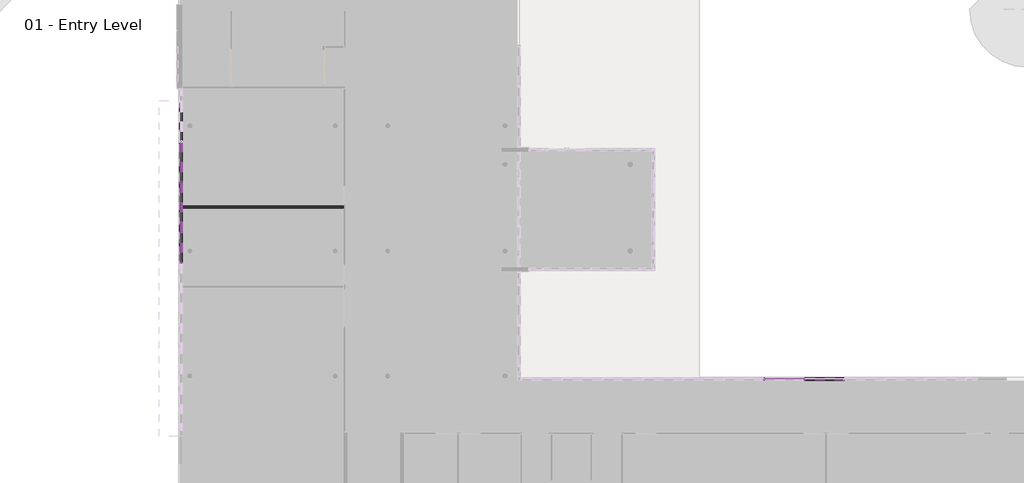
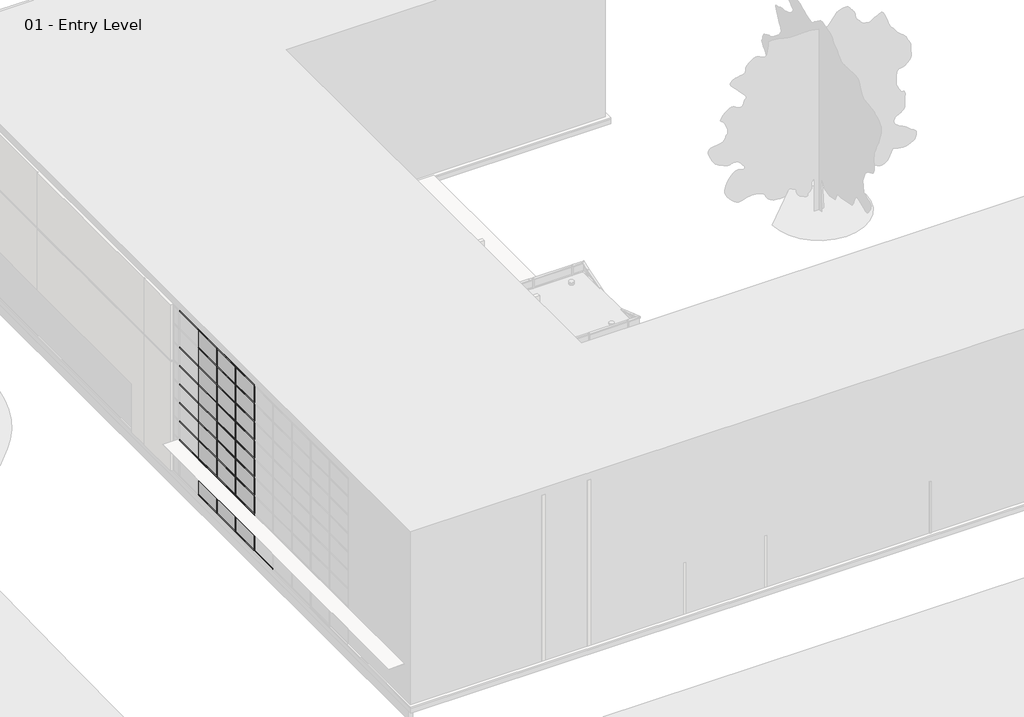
# One storey, part 11 of 35: 94 members, 36 plates, 1 wall.
"""IFC4 building model written with IfcOpenShell, lengths in millimetres."""

from ifc_helpers import new_model, si_unit, origin, origin_with_axes, place, context, project, spatial, polyline, outline, extrude, transform, mapped, element, save
from components import member_2b49869a, member_391b434c, member_9e90ae50, system_panel_glazed_1b9d6098, system_panel_glazed_70da479d, system_panel_solid_b376696c, system_panel_solid_77e8b053

model = new_model("IFC4")

# Units and contexts
model_context = context("Model", 3, world=origin())
ifc_project = project(units=[si_unit("LENGTHUNIT", "METRE", prefix="MILLI")], contexts=[model_context])

# Site, building, storey
site = spatial("IfcSite", under=ifc_project)
building = spatial("IfcBuilding", under=site)
storey = spatial("IfcBuildingStorey", under=building, Name="01 - Entry Level", Elevation=0.0)

# Members
placement = place(None, origin())
member_shape = member_2b49869a(model_context)
element("IfcMember", 1, ObjectType="Rectangular Mullion : 2.5\" x 5\" rectangular", at=placement, inside=storey, context=model_context, shape_type="MappedRepresentation", body=[
    mapped(member_shape, transform((178.7207476, 20920.0, 9753.6), x_axis=(0.0, -1.0, 0.0), y_axis=(-1.0, 0.0, 0.0), z_axis=(0.0, 0.0, -1.0))),
])
element("IfcMember", 2, ObjectType="Rectangular Mullion : 2.5\" x 5\" rectangular", at=placement, inside=storey, context=model_context, shape_type="MappedRepresentation", body=[
    mapped(member_shape, transform((178.7207476, 18888.0, 9753.6), x_axis=(0.0, -1.0, 0.0), y_axis=(-1.0, 0.0, 0.0), z_axis=(0.0, 0.0, -1.0))),
])
element("IfcMember", 3, ObjectType="Rectangular Mullion : 2.5\" x 5\" rectangular", at=placement, inside=storey, context=model_context, shape_type="MappedRepresentation", body=[
    mapped(member_shape, transform((178.7207476, 16856.0, 9753.6), x_axis=(0.0, -1.0, 0.0), y_axis=(-1.0, 0.0, 0.0), z_axis=(0.0, 0.0, -1.0))),
])
element("IfcMember", 4, ObjectType="Rectangular Mullion : 2.5\" x 5\" rectangular", at=placement, inside=storey, context=model_context, shape_type="MappedRepresentation", body=[
    mapped(member_shape, transform((31560.4207476, 11001.3, 9753.6), x_axis=(-1.0, 0.0, 0.0), y_axis=(0.0, 1.0, 0.0), z_axis=(0.0, 0.0, -1.0))),
])
element("IfcMember", 5, ObjectType="Rectangular Mullion : 2.5\" x 5\" rectangular", at=placement, inside=storey, context=model_context, shape_type="MappedRepresentation", body=[
    mapped(member_shape, transform((29528.4207476, 11001.3, 9753.6), x_axis=(-1.0, 0.0, 0.0), y_axis=(0.0, 1.0, 0.0), z_axis=(0.0, 0.0, -1.0))),
])
member_2_shape = member_391b434c(model_context)
element("IfcMember", 6, ObjectType="Rectangular Mullion : 2.5\" x 5\" rectangular", at=placement, inside=storey, context=model_context, shape_type="MappedRepresentation", body=[
    mapped(member_2_shape, transform((178.7207476, 22983.75, 10972.8), x_axis=(0.0, 0.0, 1.0), y_axis=(-1.0, 0.0, 0.0), z_axis=(0.0, -1.0, 0.0))),
])
element("IfcMember", 7, ObjectType="Rectangular Mullion : 2.5\" x 5\" rectangular", at=placement, inside=storey, context=model_context, shape_type="MappedRepresentation", body=[
    mapped(member_2_shape, transform((178.7207476, 20951.75, 10972.8), x_axis=(0.0, 0.0, 1.0), y_axis=(-1.0, 0.0, 0.0), z_axis=(0.0, -1.0, 0.0))),
])
element("IfcMember", 8, ObjectType="Rectangular Mullion : 2.5\" x 5\" rectangular", at=placement, inside=storey, context=model_context, shape_type="MappedRepresentation", body=[
    mapped(member_2_shape, transform((178.7207476, 18919.75, 10972.8), x_axis=(0.0, 0.0, 1.0), y_axis=(-1.0, 0.0, 0.0), z_axis=(0.0, -1.0, 0.0))),
])
element("IfcMember", 9, ObjectType="Rectangular Mullion : 2.5\" x 5\" rectangular", at=placement, inside=storey, context=model_context, shape_type="MappedRepresentation", body=[
    mapped(member_2_shape, transform((178.7207476, 16887.75, 10972.8), x_axis=(0.0, 0.0, 1.0), y_axis=(-1.0, 0.0, 0.0), z_axis=(0.0, -1.0, 0.0))),
])
element("IfcMember", 10, ObjectType="Rectangular Mullion : 2.5\" x 5\" rectangular", at=placement, inside=storey, context=model_context, shape_type="MappedRepresentation", body=[
    mapped(member_2_shape, transform((31592.1707476, 11001.3, 10972.8), x_axis=(0.0, 0.0, 1.0), y_axis=(0.0, 1.0, 0.0), z_axis=(-1.0, 0.0, 0.0))),
])
element("IfcMember", 11, ObjectType="Rectangular Mullion : 2.5\" x 5\" rectangular", at=placement, inside=storey, context=model_context, shape_type="MappedRepresentation", body=[
    mapped(member_2_shape, transform((178.7207476, 22920.25, 0.0), x_axis=(0.0, 0.0, -1.0), y_axis=(-1.0, 0.0, 0.0), z_axis=(0.0, 1.0, 0.0))),
])
element("IfcMember", 12, ObjectType="Rectangular Mullion : 2.5\" x 5\" rectangular", at=placement, inside=storey, context=model_context, shape_type="MappedRepresentation", body=[
    mapped(member_2_shape, transform((178.7207476, 20888.25, 0.0), x_axis=(0.0, 0.0, -1.0), y_axis=(-1.0, 0.0, 0.0), z_axis=(0.0, 1.0, 0.0))),
])
element("IfcMember", 13, ObjectType="Rectangular Mullion : 2.5\" x 5\" rectangular", at=placement, inside=storey, context=model_context, shape_type="MappedRepresentation", body=[
    mapped(member_2_shape, transform((178.7207476, 18856.25, 0.0), x_axis=(0.0, 0.0, -1.0), y_axis=(-1.0, 0.0, 0.0), z_axis=(0.0, 1.0, 0.0))),
])
element("IfcMember", 14, ObjectType="Rectangular Mullion : 2.5\" x 5\" rectangular", at=placement, inside=storey, context=model_context, shape_type="MappedRepresentation", body=[
    mapped(member_2_shape, transform((178.7207476, 16824.25, 0.0), x_axis=(0.0, 0.0, -1.0), y_axis=(-1.0, 0.0, 0.0), z_axis=(0.0, 1.0, 0.0))),
])
element("IfcMember", 15, ObjectType="Rectangular Mullion : 2.5\" x 5\" rectangular", at=placement, inside=storey, context=model_context, shape_type="MappedRepresentation", body=[
    mapped(member_2_shape, transform((31528.6707476, 11001.3, 0.0), x_axis=(0.0, 0.0, -1.0), y_axis=(0.0, 1.0, 0.0), z_axis=(1.0, 0.0, 0.0))),
])
member_3_shape = member_9e90ae50(model_context)
element("IfcMember", 16, ObjectType="Rectangular Mullion : 2.5\" x 5\" rectangular", at=placement, inside=storey, context=model_context, shape_type="MappedRepresentation", body=[
    mapped(member_3_shape, transform((178.7207476, 22983.75, 1219.2), x_axis=(0.0, 0.0, 1.0), y_axis=(-1.0, 0.0, 0.0), z_axis=(0.0, -1.0, 0.0))),
])
element("IfcMember", 17, ObjectType="Rectangular Mullion : 2.5\" x 5\" rectangular", at=placement, inside=storey, context=model_context, shape_type="MappedRepresentation", body=[
    mapped(member_3_shape, transform((178.7207476, 20951.75, 1219.2), x_axis=(0.0, 0.0, 1.0), y_axis=(-1.0, 0.0, 0.0), z_axis=(0.0, -1.0, 0.0))),
])
element("IfcMember", 18, ObjectType="Rectangular Mullion : 2.5\" x 5\" rectangular", at=placement, inside=storey, context=model_context, shape_type="MappedRepresentation", body=[
    mapped(member_3_shape, transform((178.7207476, 18919.75, 1219.2), x_axis=(0.0, 0.0, 1.0), y_axis=(-1.0, 0.0, 0.0), z_axis=(0.0, -1.0, 0.0))),
])
element("IfcMember", 19, ObjectType="Rectangular Mullion : 2.5\" x 5\" rectangular", at=placement, inside=storey, context=model_context, shape_type="MappedRepresentation", body=[
    mapped(member_3_shape, transform((178.7207476, 16887.75, 1219.2), x_axis=(0.0, 0.0, 1.0), y_axis=(-1.0, 0.0, 0.0), z_axis=(0.0, -1.0, 0.0))),
])
element("IfcMember", 20, ObjectType="Rectangular Mullion : 2.5\" x 5\" rectangular", at=placement, inside=storey, context=model_context, shape_type="MappedRepresentation", body=[
    mapped(member_3_shape, transform((178.7207476, 22983.75, 2438.4), x_axis=(0.0, 0.0, 1.0), y_axis=(-1.0, 0.0, 0.0), z_axis=(0.0, -1.0, 0.0))),
])
element("IfcMember", 21, ObjectType="Rectangular Mullion : 2.5\" x 5\" rectangular", at=placement, inside=storey, context=model_context, shape_type="MappedRepresentation", body=[
    mapped(member_3_shape, transform((178.7207476, 20951.75, 2438.4), x_axis=(0.0, 0.0, 1.0), y_axis=(-1.0, 0.0, 0.0), z_axis=(0.0, -1.0, 0.0))),
])
element("IfcMember", 22, ObjectType="Rectangular Mullion : 2.5\" x 5\" rectangular", at=placement, inside=storey, context=model_context, shape_type="MappedRepresentation", body=[
    mapped(member_3_shape, transform((178.7207476, 18919.75, 2438.4), x_axis=(0.0, 0.0, 1.0), y_axis=(-1.0, 0.0, 0.0), z_axis=(0.0, -1.0, 0.0))),
])
element("IfcMember", 23, ObjectType="Rectangular Mullion : 2.5\" x 5\" rectangular", at=placement, inside=storey, context=model_context, shape_type="MappedRepresentation", body=[
    mapped(member_3_shape, transform((178.7207476, 16887.75, 2438.4), x_axis=(0.0, 0.0, 1.0), y_axis=(-1.0, 0.0, 0.0), z_axis=(0.0, -1.0, 0.0))),
])
element("IfcMember", 24, ObjectType="Rectangular Mullion : 2.5\" x 5\" rectangular", at=placement, inside=storey, context=model_context, shape_type="MappedRepresentation", body=[
    mapped(member_3_shape, transform((178.7207476, 22983.75, 3657.6), x_axis=(0.0, 0.0, 1.0), y_axis=(-1.0, 0.0, 0.0), z_axis=(0.0, -1.0, 0.0))),
])
element("IfcMember", 25, ObjectType="Rectangular Mullion : 2.5\" x 5\" rectangular", at=placement, inside=storey, context=model_context, shape_type="MappedRepresentation", body=[
    mapped(member_3_shape, transform((178.7207476, 20951.75, 3657.6), x_axis=(0.0, 0.0, 1.0), y_axis=(-1.0, 0.0, 0.0), z_axis=(0.0, -1.0, 0.0))),
])
element("IfcMember", 26, ObjectType="Rectangular Mullion : 2.5\" x 5\" rectangular", at=placement, inside=storey, context=model_context, shape_type="MappedRepresentation", body=[
    mapped(member_3_shape, transform((178.7207476, 18919.75, 3657.6), x_axis=(0.0, 0.0, 1.0), y_axis=(-1.0, 0.0, 0.0), z_axis=(0.0, -1.0, 0.0))),
])
element("IfcMember", 27, ObjectType="Rectangular Mullion : 2.5\" x 5\" rectangular", at=placement, inside=storey, context=model_context, shape_type="MappedRepresentation", body=[
    mapped(member_3_shape, transform((178.7207476, 16887.75, 3657.6), x_axis=(0.0, 0.0, 1.0), y_axis=(-1.0, 0.0, 0.0), z_axis=(0.0, -1.0, 0.0))),
])
element("IfcMember", 28, ObjectType="Rectangular Mullion : 2.5\" x 5\" rectangular", at=placement, inside=storey, context=model_context, shape_type="MappedRepresentation", body=[
    mapped(member_3_shape, transform((178.7207476, 22983.75, 4876.8), x_axis=(0.0, 0.0, 1.0), y_axis=(-1.0, 0.0, 0.0), z_axis=(0.0, -1.0, 0.0))),
])
element("IfcMember", 29, ObjectType="Rectangular Mullion : 2.5\" x 5\" rectangular", at=placement, inside=storey, context=model_context, shape_type="MappedRepresentation", body=[
    mapped(member_3_shape, transform((178.7207476, 20951.75, 4876.8), x_axis=(0.0, 0.0, 1.0), y_axis=(-1.0, 0.0, 0.0), z_axis=(0.0, -1.0, 0.0))),
])
element("IfcMember", 30, ObjectType="Rectangular Mullion : 2.5\" x 5\" rectangular", at=placement, inside=storey, context=model_context, shape_type="MappedRepresentation", body=[
    mapped(member_3_shape, transform((178.7207476, 18919.75, 4876.8), x_axis=(0.0, 0.0, 1.0), y_axis=(-1.0, 0.0, 0.0), z_axis=(0.0, -1.0, 0.0))),
])
element("IfcMember", 31, ObjectType="Rectangular Mullion : 2.5\" x 5\" rectangular", at=placement, inside=storey, context=model_context, shape_type="MappedRepresentation", body=[
    mapped(member_3_shape, transform((178.7207476, 16887.75, 4876.8), x_axis=(0.0, 0.0, 1.0), y_axis=(-1.0, 0.0, 0.0), z_axis=(0.0, -1.0, 0.0))),
])
element("IfcMember", 32, ObjectType="Rectangular Mullion : 2.5\" x 5\" rectangular", at=placement, inside=storey, context=model_context, shape_type="MappedRepresentation", body=[
    mapped(member_3_shape, transform((178.7207476, 22983.75, 6096.0), x_axis=(0.0, 0.0, 1.0), y_axis=(-1.0, 0.0, 0.0), z_axis=(0.0, -1.0, 0.0))),
])
element("IfcMember", 33, ObjectType="Rectangular Mullion : 2.5\" x 5\" rectangular", at=placement, inside=storey, context=model_context, shape_type="MappedRepresentation", body=[
    mapped(member_3_shape, transform((178.7207476, 20951.75, 6096.0), x_axis=(0.0, 0.0, 1.0), y_axis=(-1.0, 0.0, 0.0), z_axis=(0.0, -1.0, 0.0))),
])
element("IfcMember", 34, ObjectType="Rectangular Mullion : 2.5\" x 5\" rectangular", at=placement, inside=storey, context=model_context, shape_type="MappedRepresentation", body=[
    mapped(member_3_shape, transform((178.7207476, 18919.75, 6096.0), x_axis=(0.0, 0.0, 1.0), y_axis=(-1.0, 0.0, 0.0), z_axis=(0.0, -1.0, 0.0))),
])
element("IfcMember", 35, ObjectType="Rectangular Mullion : 2.5\" x 5\" rectangular", at=placement, inside=storey, context=model_context, shape_type="MappedRepresentation", body=[
    mapped(member_3_shape, transform((178.7207476, 16887.75, 6096.0), x_axis=(0.0, 0.0, 1.0), y_axis=(-1.0, 0.0, 0.0), z_axis=(0.0, -1.0, 0.0))),
])
element("IfcMember", 36, ObjectType="Rectangular Mullion : 2.5\" x 5\" rectangular", at=placement, inside=storey, context=model_context, shape_type="MappedRepresentation", body=[
    mapped(member_3_shape, transform((178.7207476, 22983.75, 7315.2), x_axis=(0.0, 0.0, 1.0), y_axis=(-1.0, 0.0, 0.0), z_axis=(0.0, -1.0, 0.0))),
])
element("IfcMember", 37, ObjectType="Rectangular Mullion : 2.5\" x 5\" rectangular", at=placement, inside=storey, context=model_context, shape_type="MappedRepresentation", body=[
    mapped(member_3_shape, transform((178.7207476, 20951.75, 7315.2), x_axis=(0.0, 0.0, 1.0), y_axis=(-1.0, 0.0, 0.0), z_axis=(0.0, -1.0, 0.0))),
])
element("IfcMember", 38, ObjectType="Rectangular Mullion : 2.5\" x 5\" rectangular", at=placement, inside=storey, context=model_context, shape_type="MappedRepresentation", body=[
    mapped(member_3_shape, transform((178.7207476, 18919.75, 7315.2), x_axis=(0.0, 0.0, 1.0), y_axis=(-1.0, 0.0, 0.0), z_axis=(0.0, -1.0, 0.0))),
])
element("IfcMember", 39, ObjectType="Rectangular Mullion : 2.5\" x 5\" rectangular", at=placement, inside=storey, context=model_context, shape_type="MappedRepresentation", body=[
    mapped(member_3_shape, transform((178.7207476, 16887.75, 7315.2), x_axis=(0.0, 0.0, 1.0), y_axis=(-1.0, 0.0, 0.0), z_axis=(0.0, -1.0, 0.0))),
])
element("IfcMember", 40, ObjectType="Rectangular Mullion : 2.5\" x 5\" rectangular", at=placement, inside=storey, context=model_context, shape_type="MappedRepresentation", body=[
    mapped(member_3_shape, transform((178.7207476, 22983.75, 8534.4), x_axis=(0.0, 0.0, 1.0), y_axis=(-1.0, 0.0, 0.0), z_axis=(0.0, -1.0, 0.0))),
])
element("IfcMember", 41, ObjectType="Rectangular Mullion : 2.5\" x 5\" rectangular", at=placement, inside=storey, context=model_context, shape_type="MappedRepresentation", body=[
    mapped(member_3_shape, transform((178.7207476, 20951.75, 8534.4), x_axis=(0.0, 0.0, 1.0), y_axis=(-1.0, 0.0, 0.0), z_axis=(0.0, -1.0, 0.0))),
])
element("IfcMember", 42, ObjectType="Rectangular Mullion : 2.5\" x 5\" rectangular", at=placement, inside=storey, context=model_context, shape_type="MappedRepresentation", body=[
    mapped(member_3_shape, transform((178.7207476, 18919.75, 8534.4), x_axis=(0.0, 0.0, 1.0), y_axis=(-1.0, 0.0, 0.0), z_axis=(0.0, -1.0, 0.0))),
])
element("IfcMember", 43, ObjectType="Rectangular Mullion : 2.5\" x 5\" rectangular", at=placement, inside=storey, context=model_context, shape_type="MappedRepresentation", body=[
    mapped(member_3_shape, transform((178.7207476, 16887.75, 8534.4), x_axis=(0.0, 0.0, 1.0), y_axis=(-1.0, 0.0, 0.0), z_axis=(0.0, -1.0, 0.0))),
])
element("IfcMember", 44, ObjectType="Rectangular Mullion : 2.5\" x 5\" rectangular", at=placement, inside=storey, context=model_context, shape_type="MappedRepresentation", body=[
    mapped(member_3_shape, transform((178.7207476, 20951.75, 9753.6), x_axis=(0.0, 0.0, 1.0), y_axis=(-1.0, 0.0, 0.0), z_axis=(0.0, -1.0, 0.0))),
])
element("IfcMember", 45, ObjectType="Rectangular Mullion : 2.5\" x 5\" rectangular", at=placement, inside=storey, context=model_context, shape_type="MappedRepresentation", body=[
    mapped(member_3_shape, transform((178.7207476, 18919.75, 9753.6), x_axis=(0.0, 0.0, 1.0), y_axis=(-1.0, 0.0, 0.0), z_axis=(0.0, -1.0, 0.0))),
])
element("IfcMember", 46, ObjectType="Rectangular Mullion : 2.5\" x 5\" rectangular", at=placement, inside=storey, context=model_context, shape_type="MappedRepresentation", body=[
    mapped(member_3_shape, transform((178.7207476, 16887.75, 9753.6), x_axis=(0.0, 0.0, 1.0), y_axis=(-1.0, 0.0, 0.0), z_axis=(0.0, -1.0, 0.0))),
])
element("IfcMember", 47, ObjectType="Rectangular Mullion : 2.5\" x 5\" rectangular", at=placement, inside=storey, context=model_context, shape_type="MappedRepresentation", body=[
    mapped(member_3_shape, transform((31592.1707476, 11001.3, 1219.2), x_axis=(0.0, 0.0, 1.0), y_axis=(0.0, 1.0, 0.0), z_axis=(-1.0, 0.0, 0.0))),
])
element("IfcMember", 48, ObjectType="Rectangular Mullion : 2.5\" x 5\" rectangular", at=placement, inside=storey, context=model_context, shape_type="MappedRepresentation", body=[
    mapped(member_3_shape, transform((31592.1707476, 11001.3, 2438.4), x_axis=(0.0, 0.0, 1.0), y_axis=(0.0, 1.0, 0.0), z_axis=(-1.0, 0.0, 0.0))),
])
element("IfcMember", 49, ObjectType="Rectangular Mullion : 2.5\" x 5\" rectangular", at=placement, inside=storey, context=model_context, shape_type="MappedRepresentation", body=[
    mapped(member_3_shape, transform((31592.1707476, 11001.3, 3657.6), x_axis=(0.0, 0.0, 1.0), y_axis=(0.0, 1.0, 0.0), z_axis=(-1.0, 0.0, 0.0))),
])
element("IfcMember", 50, ObjectType="Rectangular Mullion : 2.5\" x 5\" rectangular", at=placement, inside=storey, context=model_context, shape_type="MappedRepresentation", body=[
    mapped(member_3_shape, transform((31592.1707476, 11001.3, 4876.8), x_axis=(0.0, 0.0, 1.0), y_axis=(0.0, 1.0, 0.0), z_axis=(-1.0, 0.0, 0.0))),
])
element("IfcMember", 51, ObjectType="Rectangular Mullion : 2.5\" x 5\" rectangular", at=placement, inside=storey, context=model_context, shape_type="MappedRepresentation", body=[
    mapped(member_3_shape, transform((31592.1707476, 11001.3, 6096.0), x_axis=(0.0, 0.0, 1.0), y_axis=(0.0, 1.0, 0.0), z_axis=(-1.0, 0.0, 0.0))),
])
element("IfcMember", 52, ObjectType="Rectangular Mullion : 2.5\" x 5\" rectangular", at=placement, inside=storey, context=model_context, shape_type="MappedRepresentation", body=[
    mapped(member_3_shape, transform((31592.1707476, 11001.3, 7315.2), x_axis=(0.0, 0.0, 1.0), y_axis=(0.0, 1.0, 0.0), z_axis=(-1.0, 0.0, 0.0))),
])
element("IfcMember", 53, ObjectType="Rectangular Mullion : 2.5\" x 5\" rectangular", at=placement, inside=storey, context=model_context, shape_type="MappedRepresentation", body=[
    mapped(member_3_shape, transform((31592.1707476, 11001.3, 8534.4), x_axis=(0.0, 0.0, 1.0), y_axis=(0.0, 1.0, 0.0), z_axis=(-1.0, 0.0, 0.0))),
])
element("IfcMember", 54, ObjectType="Rectangular Mullion : 2.5\" x 5\" rectangular", at=placement, inside=storey, context=model_context, shape_type="MappedRepresentation", body=[
    mapped(member_3_shape, transform((31592.1707476, 11001.3, 9753.6), x_axis=(0.0, 0.0, 1.0), y_axis=(0.0, 1.0, 0.0), z_axis=(-1.0, 0.0, 0.0))),
])
element("IfcMember", 55, ObjectType="Rectangular Mullion : 2.5\" x 5\" rectangular", at=placement, inside=storey, context=model_context, shape_type="MappedRepresentation", body=[
    mapped(member_shape, transform((178.7207476, 20920.0, 0.0), x_axis=(0.0, -1.0, 0.0), y_axis=(-1.0, 0.0, 0.0), z_axis=(0.0, 0.0, -1.0))),
])
element("IfcMember", 56, ObjectType="Rectangular Mullion : 2.5\" x 5\" rectangular", at=placement, inside=storey, context=model_context, shape_type="MappedRepresentation", body=[
    mapped(member_shape, transform((178.7207476, 18888.0, 0.0), x_axis=(0.0, -1.0, 0.0), y_axis=(-1.0, 0.0, 0.0), z_axis=(0.0, 0.0, -1.0))),
])
element("IfcMember", 57, ObjectType="Rectangular Mullion : 2.5\" x 5\" rectangular", at=placement, inside=storey, context=model_context, shape_type="MappedRepresentation", body=[
    mapped(member_shape, transform((178.7207476, 16856.0, 0.0), x_axis=(0.0, -1.0, 0.0), y_axis=(-1.0, 0.0, 0.0), z_axis=(0.0, 0.0, -1.0))),
])
element("IfcMember", 58, ObjectType="Rectangular Mullion : 2.5\" x 5\" rectangular", at=placement, inside=storey, context=model_context, shape_type="MappedRepresentation", body=[
    mapped(member_shape, transform((31560.4207476, 11001.3, 0.0), x_axis=(-1.0, 0.0, 0.0), y_axis=(0.0, 1.0, 0.0), z_axis=(0.0, 0.0, -1.0))),
])
element("IfcMember", 59, ObjectType="Rectangular Mullion : 2.5\" x 5\" rectangular", at=placement, inside=storey, context=model_context, shape_type="MappedRepresentation", body=[
    mapped(member_shape, transform((29528.4207476, 11001.3, 0.0), x_axis=(-1.0, 0.0, 0.0), y_axis=(0.0, 1.0, 0.0), z_axis=(0.0, 0.0, -1.0))),
])
element("IfcMember", 60, ObjectType="Rectangular Mullion : 2.5\" x 5\" rectangular", at=placement, inside=storey, context=model_context, shape_type="MappedRepresentation", body=[
    mapped(member_shape, transform((178.7207476, 20920.0, 1219.2), x_axis=(0.0, -1.0, 0.0), y_axis=(-1.0, 0.0, 0.0), z_axis=(0.0, 0.0, -1.0))),
])
element("IfcMember", 61, ObjectType="Rectangular Mullion : 2.5\" x 5\" rectangular", at=placement, inside=storey, context=model_context, shape_type="MappedRepresentation", body=[
    mapped(member_shape, transform((178.7207476, 18888.0, 1219.2), x_axis=(0.0, -1.0, 0.0), y_axis=(-1.0, 0.0, 0.0), z_axis=(0.0, 0.0, -1.0))),
])
element("IfcMember", 62, ObjectType="Rectangular Mullion : 2.5\" x 5\" rectangular", at=placement, inside=storey, context=model_context, shape_type="MappedRepresentation", body=[
    mapped(member_shape, transform((178.7207476, 16856.0, 1219.2), x_axis=(0.0, -1.0, 0.0), y_axis=(-1.0, 0.0, 0.0), z_axis=(0.0, 0.0, -1.0))),
])
element("IfcMember", 63, ObjectType="Rectangular Mullion : 2.5\" x 5\" rectangular", at=placement, inside=storey, context=model_context, shape_type="MappedRepresentation", body=[
    mapped(member_shape, transform((178.7207476, 20920.0, 2438.4), x_axis=(0.0, -1.0, 0.0), y_axis=(-1.0, 0.0, 0.0), z_axis=(0.0, 0.0, -1.0))),
])
element("IfcMember", 64, ObjectType="Rectangular Mullion : 2.5\" x 5\" rectangular", at=placement, inside=storey, context=model_context, shape_type="MappedRepresentation", body=[
    mapped(member_shape, transform((178.7207476, 18888.0, 2438.4), x_axis=(0.0, -1.0, 0.0), y_axis=(-1.0, 0.0, 0.0), z_axis=(0.0, 0.0, -1.0))),
])
element("IfcMember", 65, ObjectType="Rectangular Mullion : 2.5\" x 5\" rectangular", at=placement, inside=storey, context=model_context, shape_type="MappedRepresentation", body=[
    mapped(member_shape, transform((178.7207476, 16856.0, 2438.4), x_axis=(0.0, -1.0, 0.0), y_axis=(-1.0, 0.0, 0.0), z_axis=(0.0, 0.0, -1.0))),
])
element("IfcMember", 66, ObjectType="Rectangular Mullion : 2.5\" x 5\" rectangular", at=placement, inside=storey, context=model_context, shape_type="MappedRepresentation", body=[
    mapped(member_shape, transform((178.7207476, 20920.0, 3657.6), x_axis=(0.0, -1.0, 0.0), y_axis=(-1.0, 0.0, 0.0), z_axis=(0.0, 0.0, -1.0))),
])
element("IfcMember", 67, ObjectType="Rectangular Mullion : 2.5\" x 5\" rectangular", at=placement, inside=storey, context=model_context, shape_type="MappedRepresentation", body=[
    mapped(member_shape, transform((178.7207476, 18888.0, 3657.6), x_axis=(0.0, -1.0, 0.0), y_axis=(-1.0, 0.0, 0.0), z_axis=(0.0, 0.0, -1.0))),
])
element("IfcMember", 68, ObjectType="Rectangular Mullion : 2.5\" x 5\" rectangular", at=placement, inside=storey, context=model_context, shape_type="MappedRepresentation", body=[
    mapped(member_shape, transform((178.7207476, 16856.0, 3657.6), x_axis=(0.0, -1.0, 0.0), y_axis=(-1.0, 0.0, 0.0), z_axis=(0.0, 0.0, -1.0))),
])
element("IfcMember", 69, ObjectType="Rectangular Mullion : 2.5\" x 5\" rectangular", at=placement, inside=storey, context=model_context, shape_type="MappedRepresentation", body=[
    mapped(member_shape, transform((178.7207476, 20920.0, 4876.8), x_axis=(0.0, -1.0, 0.0), y_axis=(-1.0, 0.0, 0.0), z_axis=(0.0, 0.0, -1.0))),
])
element("IfcMember", 70, ObjectType="Rectangular Mullion : 2.5\" x 5\" rectangular", at=placement, inside=storey, context=model_context, shape_type="MappedRepresentation", body=[
    mapped(member_shape, transform((178.7207476, 18888.0, 4876.8), x_axis=(0.0, -1.0, 0.0), y_axis=(-1.0, 0.0, 0.0), z_axis=(0.0, 0.0, -1.0))),
])
element("IfcMember", 71, ObjectType="Rectangular Mullion : 2.5\" x 5\" rectangular", at=placement, inside=storey, context=model_context, shape_type="MappedRepresentation", body=[
    mapped(member_shape, transform((178.7207476, 16856.0, 4876.8), x_axis=(0.0, -1.0, 0.0), y_axis=(-1.0, 0.0, 0.0), z_axis=(0.0, 0.0, -1.0))),
])
element("IfcMember", 72, ObjectType="Rectangular Mullion : 2.5\" x 5\" rectangular", at=placement, inside=storey, context=model_context, shape_type="MappedRepresentation", body=[
    mapped(member_shape, transform((178.7207476, 20920.0, 6096.0), x_axis=(0.0, -1.0, 0.0), y_axis=(-1.0, 0.0, 0.0), z_axis=(0.0, 0.0, -1.0))),
])
element("IfcMember", 73, ObjectType="Rectangular Mullion : 2.5\" x 5\" rectangular", at=placement, inside=storey, context=model_context, shape_type="MappedRepresentation", body=[
    mapped(member_shape, transform((178.7207476, 18888.0, 6096.0), x_axis=(0.0, -1.0, 0.0), y_axis=(-1.0, 0.0, 0.0), z_axis=(0.0, 0.0, -1.0))),
])
element("IfcMember", 74, ObjectType="Rectangular Mullion : 2.5\" x 5\" rectangular", at=placement, inside=storey, context=model_context, shape_type="MappedRepresentation", body=[
    mapped(member_shape, transform((178.7207476, 16856.0, 6096.0), x_axis=(0.0, -1.0, 0.0), y_axis=(-1.0, 0.0, 0.0), z_axis=(0.0, 0.0, -1.0))),
])
element("IfcMember", 75, ObjectType="Rectangular Mullion : 2.5\" x 5\" rectangular", at=placement, inside=storey, context=model_context, shape_type="MappedRepresentation", body=[
    mapped(member_shape, transform((178.7207476, 20920.0, 7315.2), x_axis=(0.0, -1.0, 0.0), y_axis=(-1.0, 0.0, 0.0), z_axis=(0.0, 0.0, -1.0))),
])
element("IfcMember", 76, ObjectType="Rectangular Mullion : 2.5\" x 5\" rectangular", at=placement, inside=storey, context=model_context, shape_type="MappedRepresentation", body=[
    mapped(member_shape, transform((178.7207476, 18888.0, 7315.2), x_axis=(0.0, -1.0, 0.0), y_axis=(-1.0, 0.0, 0.0), z_axis=(0.0, 0.0, -1.0))),
])
element("IfcMember", 77, ObjectType="Rectangular Mullion : 2.5\" x 5\" rectangular", at=placement, inside=storey, context=model_context, shape_type="MappedRepresentation", body=[
    mapped(member_shape, transform((178.7207476, 16856.0, 7315.2), x_axis=(0.0, -1.0, 0.0), y_axis=(-1.0, 0.0, 0.0), z_axis=(0.0, 0.0, -1.0))),
])
element("IfcMember", 78, ObjectType="Rectangular Mullion : 2.5\" x 5\" rectangular", at=placement, inside=storey, context=model_context, shape_type="MappedRepresentation", body=[
    mapped(member_shape, transform((178.7207476, 20920.0, 8534.4), x_axis=(0.0, -1.0, 0.0), y_axis=(-1.0, 0.0, 0.0), z_axis=(0.0, 0.0, -1.0))),
])
element("IfcMember", 79, ObjectType="Rectangular Mullion : 2.5\" x 5\" rectangular", at=placement, inside=storey, context=model_context, shape_type="MappedRepresentation", body=[
    mapped(member_shape, transform((178.7207476, 18888.0, 8534.4), x_axis=(0.0, -1.0, 0.0), y_axis=(-1.0, 0.0, 0.0), z_axis=(0.0, 0.0, -1.0))),
])
element("IfcMember", 80, ObjectType="Rectangular Mullion : 2.5\" x 5\" rectangular", at=placement, inside=storey, context=model_context, shape_type="MappedRepresentation", body=[
    mapped(member_shape, transform((178.7207476, 16856.0, 8534.4), x_axis=(0.0, -1.0, 0.0), y_axis=(-1.0, 0.0, 0.0), z_axis=(0.0, 0.0, -1.0))),
])
element("IfcMember", 81, ObjectType="Rectangular Mullion : 2.5\" x 5\" rectangular", at=placement, inside=storey, context=model_context, shape_type="MappedRepresentation", body=[
    mapped(member_shape, transform((31560.4207476, 11001.3, 1219.2), x_axis=(-1.0, 0.0, 0.0), y_axis=(0.0, 1.0, 0.0), z_axis=(0.0, 0.0, -1.0))),
])
element("IfcMember", 82, ObjectType="Rectangular Mullion : 2.5\" x 5\" rectangular", at=placement, inside=storey, context=model_context, shape_type="MappedRepresentation", body=[
    mapped(member_shape, transform((29528.4207476, 11001.3, 1219.2), x_axis=(-1.0, 0.0, 0.0), y_axis=(0.0, 1.0, 0.0), z_axis=(0.0, 0.0, -1.0))),
])
element("IfcMember", 83, ObjectType="Rectangular Mullion : 2.5\" x 5\" rectangular", at=placement, inside=storey, context=model_context, shape_type="MappedRepresentation", body=[
    mapped(member_shape, transform((31560.4207476, 11001.3, 2438.4), x_axis=(-1.0, 0.0, 0.0), y_axis=(0.0, 1.0, 0.0), z_axis=(0.0, 0.0, -1.0))),
])
element("IfcMember", 84, ObjectType="Rectangular Mullion : 2.5\" x 5\" rectangular", at=placement, inside=storey, context=model_context, shape_type="MappedRepresentation", body=[
    mapped(member_shape, transform((29528.4207476, 11001.3, 2438.4), x_axis=(-1.0, 0.0, 0.0), y_axis=(0.0, 1.0, 0.0), z_axis=(0.0, 0.0, -1.0))),
])
element("IfcMember", 85, ObjectType="Rectangular Mullion : 2.5\" x 5\" rectangular", at=placement, inside=storey, context=model_context, shape_type="MappedRepresentation", body=[
    mapped(member_shape, transform((31560.4207476, 11001.3, 3657.6), x_axis=(-1.0, 0.0, 0.0), y_axis=(0.0, 1.0, 0.0), z_axis=(0.0, 0.0, -1.0))),
])
element("IfcMember", 86, ObjectType="Rectangular Mullion : 2.5\" x 5\" rectangular", at=placement, inside=storey, context=model_context, shape_type="MappedRepresentation", body=[
    mapped(member_shape, transform((29528.4207476, 11001.3, 3657.6), x_axis=(-1.0, 0.0, 0.0), y_axis=(0.0, 1.0, 0.0), z_axis=(0.0, 0.0, -1.0))),
])
element("IfcMember", 87, ObjectType="Rectangular Mullion : 2.5\" x 5\" rectangular", at=placement, inside=storey, context=model_context, shape_type="MappedRepresentation", body=[
    mapped(member_shape, transform((31560.4207476, 11001.3, 4876.8), x_axis=(-1.0, 0.0, 0.0), y_axis=(0.0, 1.0, 0.0), z_axis=(0.0, 0.0, -1.0))),
])
element("IfcMember", 88, ObjectType="Rectangular Mullion : 2.5\" x 5\" rectangular", at=placement, inside=storey, context=model_context, shape_type="MappedRepresentation", body=[
    mapped(member_shape, transform((29528.4207476, 11001.3, 4876.8), x_axis=(-1.0, 0.0, 0.0), y_axis=(0.0, 1.0, 0.0), z_axis=(0.0, 0.0, -1.0))),
])
element("IfcMember", 89, ObjectType="Rectangular Mullion : 2.5\" x 5\" rectangular", at=placement, inside=storey, context=model_context, shape_type="MappedRepresentation", body=[
    mapped(member_shape, transform((31560.4207476, 11001.3, 6096.0), x_axis=(-1.0, 0.0, 0.0), y_axis=(0.0, 1.0, 0.0), z_axis=(0.0, 0.0, -1.0))),
])
element("IfcMember", 90, ObjectType="Rectangular Mullion : 2.5\" x 5\" rectangular", at=placement, inside=storey, context=model_context, shape_type="MappedRepresentation", body=[
    mapped(member_shape, transform((29528.4207476, 11001.3, 6096.0), x_axis=(-1.0, 0.0, 0.0), y_axis=(0.0, 1.0, 0.0), z_axis=(0.0, 0.0, -1.0))),
])
element("IfcMember", 91, ObjectType="Rectangular Mullion : 2.5\" x 5\" rectangular", at=placement, inside=storey, context=model_context, shape_type="MappedRepresentation", body=[
    mapped(member_shape, transform((31560.4207476, 11001.3, 7315.2), x_axis=(-1.0, 0.0, 0.0), y_axis=(0.0, 1.0, 0.0), z_axis=(0.0, 0.0, -1.0))),
])
element("IfcMember", 92, ObjectType="Rectangular Mullion : 2.5\" x 5\" rectangular", at=placement, inside=storey, context=model_context, shape_type="MappedRepresentation", body=[
    mapped(member_shape, transform((29528.4207476, 11001.3, 7315.2), x_axis=(-1.0, 0.0, 0.0), y_axis=(0.0, 1.0, 0.0), z_axis=(0.0, 0.0, -1.0))),
])
element("IfcMember", 93, ObjectType="Rectangular Mullion : 2.5\" x 5\" rectangular", at=placement, inside=storey, context=model_context, shape_type="MappedRepresentation", body=[
    mapped(member_shape, transform((31560.4207476, 11001.3, 8534.4), x_axis=(-1.0, 0.0, 0.0), y_axis=(0.0, 1.0, 0.0), z_axis=(0.0, 0.0, -1.0))),
])
element("IfcMember", 94, ObjectType="Rectangular Mullion : 2.5\" x 5\" rectangular", at=placement, inside=storey, context=model_context, shape_type="MappedRepresentation", body=[
    mapped(member_shape, transform((29528.4207476, 11001.3, 8534.4), x_axis=(-1.0, 0.0, 0.0), y_axis=(0.0, 1.0, 0.0), z_axis=(0.0, 0.0, -1.0))),
])

# Plates
system_panel_glazed_shape = system_panel_glazed_1b9d6098(model_context)
element("IfcPlate", 95, ObjectType="System Panel : Glazed", at=placement, inside=storey, context=model_context, shape_type="MappedRepresentation", body=[
    mapped(system_panel_glazed_shape, transform((30544.4207476, 11001.3, 63.5), x_axis=(-1.0, 0.0, 0.0), y_axis=(0.0, -1.0, 0.0), z_axis=(0.0, 0.0, 1.0))),
])
element("IfcPlate", 96, ObjectType="System Panel : Glazed", at=placement, inside=storey, context=model_context, shape_type="MappedRepresentation", body=[
    mapped(system_panel_glazed_shape, transform((30544.4207476, 11001.3, 9785.35), x_axis=(-1.0, 0.0, 0.0), y_axis=(0.0, -1.0, 0.0), z_axis=(0.0, 0.0, 1.0))),
])
element("IfcPlate", 97, ObjectType="System Panel : Glazed", at=placement, inside=storey, context=model_context, shape_type="MappedRepresentation", body=[
    mapped(system_panel_glazed_shape, transform((178.7207476, 21936.0, 63.5), x_axis=(0.0, -1.0, 0.0), y_axis=(1.0, 0.0, 0.0), z_axis=(0.0, 0.0, 1.0))),
])
element("IfcPlate", 98, ObjectType="System Panel : Glazed", at=placement, inside=storey, context=model_context, shape_type="MappedRepresentation", body=[
    mapped(system_panel_glazed_shape, transform((178.7207476, 19904.0, 63.5), x_axis=(0.0, -1.0, 0.0), y_axis=(1.0, 0.0, 0.0), z_axis=(0.0, 0.0, 1.0))),
])
element("IfcPlate", 99, ObjectType="System Panel : Glazed", at=placement, inside=storey, context=model_context, shape_type="MappedRepresentation", body=[
    mapped(system_panel_glazed_shape, transform((178.7207476, 17872.0, 63.5), x_axis=(0.0, -1.0, 0.0), y_axis=(1.0, 0.0, 0.0), z_axis=(0.0, 0.0, 1.0))),
])
system_panel_glazed_2_shape = system_panel_glazed_70da479d(model_context)
element("IfcPlate", 100, ObjectType="System Panel : Glazed", at=placement, inside=storey, context=model_context, shape_type="MappedRepresentation", body=[
    mapped(system_panel_glazed_2_shape, transform((30544.4207476, 11001.3, 1250.95), x_axis=(-1.0, 0.0, 0.0), y_axis=(0.0, -1.0, 0.0), z_axis=(0.0, 0.0, 1.0))),
])
element("IfcPlate", 101, ObjectType="System Panel : Glazed", at=placement, inside=storey, context=model_context, shape_type="MappedRepresentation", body=[
    mapped(system_panel_glazed_2_shape, transform((30544.4207476, 11001.3, 2470.15), x_axis=(-1.0, 0.0, 0.0), y_axis=(0.0, -1.0, 0.0), z_axis=(0.0, 0.0, 1.0))),
])
element("IfcPlate", 102, ObjectType="System Panel : Glazed", at=placement, inside=storey, context=model_context, shape_type="MappedRepresentation", body=[
    mapped(system_panel_glazed_2_shape, transform((30544.4207476, 11001.3, 3689.35), x_axis=(-1.0, 0.0, 0.0), y_axis=(0.0, -1.0, 0.0), z_axis=(0.0, 0.0, 1.0))),
])
element("IfcPlate", 103, ObjectType="System Panel : Glazed", at=placement, inside=storey, context=model_context, shape_type="MappedRepresentation", body=[
    mapped(system_panel_glazed_2_shape, transform((30544.4207476, 11001.3, 4908.55), x_axis=(-1.0, 0.0, 0.0), y_axis=(0.0, -1.0, 0.0), z_axis=(0.0, 0.0, 1.0))),
])
element("IfcPlate", 104, ObjectType="System Panel : Glazed", at=placement, inside=storey, context=model_context, shape_type="MappedRepresentation", body=[
    mapped(system_panel_glazed_2_shape, transform((30544.4207476, 11001.3, 6127.75), x_axis=(-1.0, 0.0, 0.0), y_axis=(0.0, -1.0, 0.0), z_axis=(0.0, 0.0, 1.0))),
])
element("IfcPlate", 105, ObjectType="System Panel : Glazed", at=placement, inside=storey, context=model_context, shape_type="MappedRepresentation", body=[
    mapped(system_panel_glazed_2_shape, transform((30544.4207476, 11001.3, 7346.95), x_axis=(-1.0, 0.0, 0.0), y_axis=(0.0, -1.0, 0.0), z_axis=(0.0, 0.0, 1.0))),
])
element("IfcPlate", 106, ObjectType="System Panel : Glazed", at=placement, inside=storey, context=model_context, shape_type="MappedRepresentation", body=[
    mapped(system_panel_glazed_2_shape, transform((30544.4207476, 11001.3, 8566.15), x_axis=(-1.0, 0.0, 0.0), y_axis=(0.0, -1.0, 0.0), z_axis=(0.0, 0.0, 1.0))),
])
element("IfcPlate", 107, ObjectType="System Panel : Glazed", at=placement, inside=storey, context=model_context, shape_type="MappedRepresentation", body=[
    mapped(system_panel_glazed_2_shape, transform((178.7207476, 21936.0, 1250.95), x_axis=(0.0, -1.0, 0.0), y_axis=(1.0, 0.0, 0.0), z_axis=(0.0, 0.0, 1.0))),
])
element("IfcPlate", 108, ObjectType="System Panel : Glazed", at=placement, inside=storey, context=model_context, shape_type="MappedRepresentation", body=[
    mapped(system_panel_glazed_2_shape, transform((178.7207476, 19904.0, 1250.95), x_axis=(0.0, -1.0, 0.0), y_axis=(1.0, 0.0, 0.0), z_axis=(0.0, 0.0, 1.0))),
])
element("IfcPlate", 109, ObjectType="System Panel : Glazed", at=placement, inside=storey, context=model_context, shape_type="MappedRepresentation", body=[
    mapped(system_panel_glazed_2_shape, transform((178.7207476, 17872.0, 1250.95), x_axis=(0.0, -1.0, 0.0), y_axis=(1.0, 0.0, 0.0), z_axis=(0.0, 0.0, 1.0))),
])
element("IfcPlate", 110, ObjectType="System Panel : Glazed", at=placement, inside=storey, context=model_context, shape_type="MappedRepresentation", body=[
    mapped(system_panel_glazed_2_shape, transform((178.7207476, 21936.0, 3689.35), x_axis=(0.0, -1.0, 0.0), y_axis=(1.0, 0.0, 0.0), z_axis=(0.0, 0.0, 1.0))),
])
element("IfcPlate", 111, ObjectType="System Panel : Glazed", at=placement, inside=storey, context=model_context, shape_type="MappedRepresentation", body=[
    mapped(system_panel_glazed_2_shape, transform((178.7207476, 19904.0, 3689.35), x_axis=(0.0, -1.0, 0.0), y_axis=(1.0, 0.0, 0.0), z_axis=(0.0, 0.0, 1.0))),
])
element("IfcPlate", 112, ObjectType="System Panel : Glazed", at=placement, inside=storey, context=model_context, shape_type="MappedRepresentation", body=[
    mapped(system_panel_glazed_2_shape, transform((178.7207476, 17872.0, 3689.35), x_axis=(0.0, -1.0, 0.0), y_axis=(1.0, 0.0, 0.0), z_axis=(0.0, 0.0, 1.0))),
])
element("IfcPlate", 113, ObjectType="System Panel : Glazed", at=placement, inside=storey, context=model_context, shape_type="MappedRepresentation", body=[
    mapped(system_panel_glazed_2_shape, transform((178.7207476, 21936.0, 4908.55), x_axis=(0.0, -1.0, 0.0), y_axis=(1.0, 0.0, 0.0), z_axis=(0.0, 0.0, 1.0))),
])
element("IfcPlate", 114, ObjectType="System Panel : Glazed", at=placement, inside=storey, context=model_context, shape_type="MappedRepresentation", body=[
    mapped(system_panel_glazed_2_shape, transform((178.7207476, 19904.0, 4908.55), x_axis=(0.0, -1.0, 0.0), y_axis=(1.0, 0.0, 0.0), z_axis=(0.0, 0.0, 1.0))),
])
element("IfcPlate", 115, ObjectType="System Panel : Glazed", at=placement, inside=storey, context=model_context, shape_type="MappedRepresentation", body=[
    mapped(system_panel_glazed_2_shape, transform((178.7207476, 17872.0, 4908.55), x_axis=(0.0, -1.0, 0.0), y_axis=(1.0, 0.0, 0.0), z_axis=(0.0, 0.0, 1.0))),
])
element("IfcPlate", 116, ObjectType="System Panel : Glazed", at=placement, inside=storey, context=model_context, shape_type="MappedRepresentation", body=[
    mapped(system_panel_glazed_2_shape, transform((178.7207476, 21936.0, 7346.95), x_axis=(0.0, -1.0, 0.0), y_axis=(1.0, 0.0, 0.0), z_axis=(0.0, 0.0, 1.0))),
])
element("IfcPlate", 117, ObjectType="System Panel : Glazed", at=placement, inside=storey, context=model_context, shape_type="MappedRepresentation", body=[
    mapped(system_panel_glazed_2_shape, transform((178.7207476, 19904.0, 7346.95), x_axis=(0.0, -1.0, 0.0), y_axis=(1.0, 0.0, 0.0), z_axis=(0.0, 0.0, 1.0))),
])
element("IfcPlate", 118, ObjectType="System Panel : Glazed", at=placement, inside=storey, context=model_context, shape_type="MappedRepresentation", body=[
    mapped(system_panel_glazed_2_shape, transform((178.7207476, 17872.0, 7346.95), x_axis=(0.0, -1.0, 0.0), y_axis=(1.0, 0.0, 0.0), z_axis=(0.0, 0.0, 1.0))),
])
element("IfcPlate", 119, ObjectType="System Panel : Glazed", at=placement, inside=storey, context=model_context, shape_type="MappedRepresentation", body=[
    mapped(system_panel_glazed_2_shape, transform((178.7207476, 21936.0, 8566.15), x_axis=(0.0, -1.0, 0.0), y_axis=(1.0, 0.0, 0.0), z_axis=(0.0, 0.0, 1.0))),
])
element("IfcPlate", 120, ObjectType="System Panel : Glazed", at=placement, inside=storey, context=model_context, shape_type="MappedRepresentation", body=[
    mapped(system_panel_glazed_2_shape, transform((178.7207476, 19904.0, 8566.15), x_axis=(0.0, -1.0, 0.0), y_axis=(1.0, 0.0, 0.0), z_axis=(0.0, 0.0, 1.0))),
])
element("IfcPlate", 121, ObjectType="System Panel : Glazed", at=placement, inside=storey, context=model_context, shape_type="MappedRepresentation", body=[
    mapped(system_panel_glazed_2_shape, transform((178.7207476, 17872.0, 8566.15), x_axis=(0.0, -1.0, 0.0), y_axis=(1.0, 0.0, 0.0), z_axis=(0.0, 0.0, 1.0))),
])
system_panel_solid_shape = system_panel_solid_b376696c(model_context)
element("IfcPlate", 122, ObjectType="System Panel : Solid", at=placement, inside=storey, context=model_context, shape_type="MappedRepresentation", body=[
    mapped(system_panel_solid_shape, transform((178.7207476, 21936.0, 9785.35), x_axis=(0.0, -1.0, 0.0), y_axis=(1.0, 0.0, 0.0), z_axis=(0.0, 0.0, 1.0))),
])
element("IfcPlate", 123, ObjectType="System Panel : Solid", at=placement, inside=storey, context=model_context, shape_type="MappedRepresentation", body=[
    mapped(system_panel_solid_shape, transform((178.7207476, 19904.0, 9785.35), x_axis=(0.0, -1.0, 0.0), y_axis=(1.0, 0.0, 0.0), z_axis=(0.0, 0.0, 1.0))),
])
element("IfcPlate", 124, ObjectType="System Panel : Solid", at=placement, inside=storey, context=model_context, shape_type="MappedRepresentation", body=[
    mapped(system_panel_solid_shape, transform((178.7207476, 17872.0, 9785.35), x_axis=(0.0, -1.0, 0.0), y_axis=(1.0, 0.0, 0.0), z_axis=(0.0, 0.0, 1.0))),
])
system_panel_solid_2_shape = system_panel_solid_77e8b053(model_context)
element("IfcPlate", 125, ObjectType="System Panel : Solid", at=placement, inside=storey, context=model_context, shape_type="MappedRepresentation", body=[
    mapped(system_panel_solid_2_shape, transform((178.7207476, 21936.0, 2470.15), x_axis=(0.0, -1.0, 0.0), y_axis=(1.0, 0.0, 0.0), z_axis=(0.0, 0.0, 1.0))),
])
element("IfcPlate", 126, ObjectType="System Panel : Solid", at=placement, inside=storey, context=model_context, shape_type="MappedRepresentation", body=[
    mapped(system_panel_solid_2_shape, transform((178.7207476, 19904.0, 2470.15), x_axis=(0.0, -1.0, 0.0), y_axis=(1.0, 0.0, 0.0), z_axis=(0.0, 0.0, 1.0))),
])
element("IfcPlate", 127, ObjectType="System Panel : Solid", at=placement, inside=storey, context=model_context, shape_type="MappedRepresentation", body=[
    mapped(system_panel_solid_2_shape, transform((178.7207476, 17872.0, 2470.15), x_axis=(0.0, -1.0, 0.0), y_axis=(1.0, 0.0, 0.0), z_axis=(0.0, 0.0, 1.0))),
])
element("IfcPlate", 128, ObjectType="System Panel : Solid", at=placement, inside=storey, context=model_context, shape_type="MappedRepresentation", body=[
    mapped(system_panel_solid_2_shape, transform((178.7207476, 21936.0, 6127.75), x_axis=(0.0, -1.0, 0.0), y_axis=(1.0, 0.0, 0.0), z_axis=(0.0, 0.0, 1.0))),
])
element("IfcPlate", 129, ObjectType="System Panel : Solid", at=placement, inside=storey, context=model_context, shape_type="MappedRepresentation", body=[
    mapped(system_panel_solid_2_shape, transform((178.7207476, 19904.0, 6127.75), x_axis=(0.0, -1.0, 0.0), y_axis=(1.0, 0.0, 0.0), z_axis=(0.0, 0.0, 1.0))),
])
element("IfcPlate", 130, ObjectType="System Panel : Solid", at=placement, inside=storey, context=model_context, shape_type="MappedRepresentation", body=[
    mapped(system_panel_solid_2_shape, transform((178.7207476, 17872.0, 6127.75), x_axis=(0.0, -1.0, 0.0), y_axis=(1.0, 0.0, 0.0), z_axis=(0.0, 0.0, 1.0))),
])

# Wall
element("IfcWall", 131, ObjectType="Typ. Partition Wall", at=placement, inside=storey, context=model_context, shape_type="SweptSolid", body=[
    extrude(outline(polyline([(178.7207476, 19732.55), (8357.5207476, 19732.55), (8357.5207476, 19618.25), (178.7207476, 19618.25), (178.7207476, 19732.55)])), origin_with_axes(), (0.0, 0.0, 1.0), 3403.6),
])

save(model, "model.ifc")
